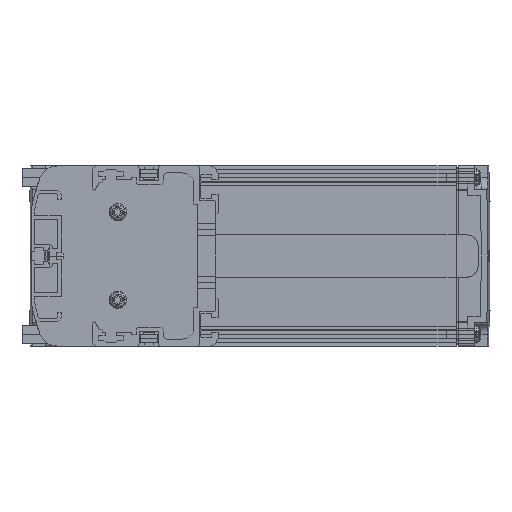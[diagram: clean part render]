
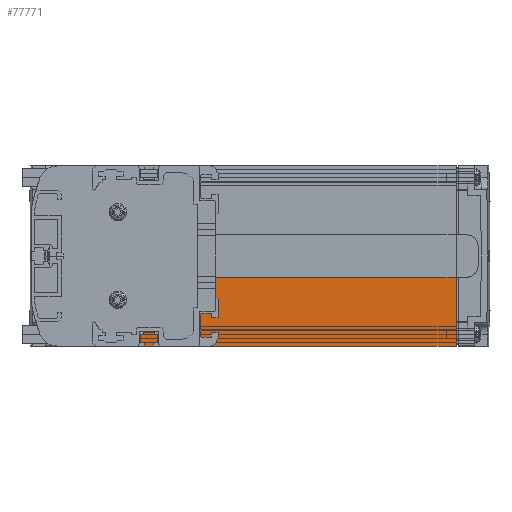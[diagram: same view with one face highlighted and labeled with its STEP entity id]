
A CAD part, left-side view. The second image highlights one B-rep face of the part: STEP entity #77771.
In plain terms, the highlighted planar face has unit normal (-1, 0, 0).
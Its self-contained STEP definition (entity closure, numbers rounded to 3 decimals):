
#75712=DIRECTION('',(0.,1.,0.));
#75713=VECTOR('',#75712,51.);
#75714=CARTESIAN_POINT('',(3.,16.,-27.));
#75715=LINE('',#75714,#75713);
#76361=DIRECTION('',(0.,1.,0.));
#76362=VECTOR('',#76361,170.);
#76363=CARTESIAN_POINT('',(3.,-103.,-39.));
#76364=LINE('',#76363,#76362);
#76379=DIRECTION('',(0.,0.,1.));
#76380=VECTOR('',#76379,29.9);
#76381=CARTESIAN_POINT('',(3.,-103.,-39.));
#76382=LINE('',#76381,#76380);
#76383=DIRECTION('',(0.,0.,-1.));
#76384=VECTOR('',#76383,12.);
#76385=CARTESIAN_POINT('',(3.,67.,-27.));
#76386=LINE('',#76385,#76384);
#76387=DIRECTION('',(0.,0.,-1.));
#76388=VECTOR('',#76387,17.9);
#76389=CARTESIAN_POINT('',(3.,16.,-9.1));
#76390=LINE('',#76389,#76388);
#76497=DIRECTION('',(0.,1.,0.));
#76498=VECTOR('',#76497,119.);
#76499=CARTESIAN_POINT('',(3.,-103.,-9.1));
#76500=LINE('',#76499,#76498);
#76584=CARTESIAN_POINT('',(3.,67.,-27.));
#76586=VERTEX_POINT('',#76584);
#76678=CARTESIAN_POINT('',(3.,67.,-39.));
#76679=VERTEX_POINT('',#76678);
#76752=CARTESIAN_POINT('',(3.,-103.,-39.));
#76753=VERTEX_POINT('',#76752);
#76754=CARTESIAN_POINT('',(3.,-103.,-9.1));
#76755=VERTEX_POINT('',#76754);
#76816=CARTESIAN_POINT('',(3.,16.,-27.));
#76817=VERTEX_POINT('',#76816);
#76818=CARTESIAN_POINT('',(3.,16.,-9.1));
#76819=VERTEX_POINT('',#76818);
#77756=CARTESIAN_POINT('',(3.,-18.,-24.05));
#77757=DIRECTION('',(1.,0.,0.));
#77758=DIRECTION('',(0.,0.,-1.));
#77759=AXIS2_PLACEMENT_3D('',#77756,#77757,#77758);
#77760=PLANE('',#77759);
#77761=ORIENTED_EDGE('',*,*,#77002,.F.);
#77763=ORIENTED_EDGE('',*,*,#77762,.F.);
#77765=ORIENTED_EDGE('',*,*,#77764,.F.);
#77766=ORIENTED_EDGE('',*,*,#77330,.F.);
#77767=ORIENTED_EDGE('',*,*,#77744,.T.);
#77768=ORIENTED_EDGE('',*,*,#76871,.F.);
#77769=EDGE_LOOP('',(#77761,#77763,#77765,#77766,#77767,#77768));
#77770=FACE_OUTER_BOUND('',#77769,.F.);
#77771=ADVANCED_FACE('',(#77770),#77760,.F.);
#76871=EDGE_CURVE('',#76586,#76679,#76386,.T.);
#77002=EDGE_CURVE('',#76817,#76586,#75715,.T.);
#77330=EDGE_CURVE('',#76753,#76755,#76382,.T.);
#77744=EDGE_CURVE('',#76753,#76679,#76364,.T.);
#77762=EDGE_CURVE('',#76819,#76817,#76390,.T.);
#77764=EDGE_CURVE('',#76755,#76819,#76500,.T.);
